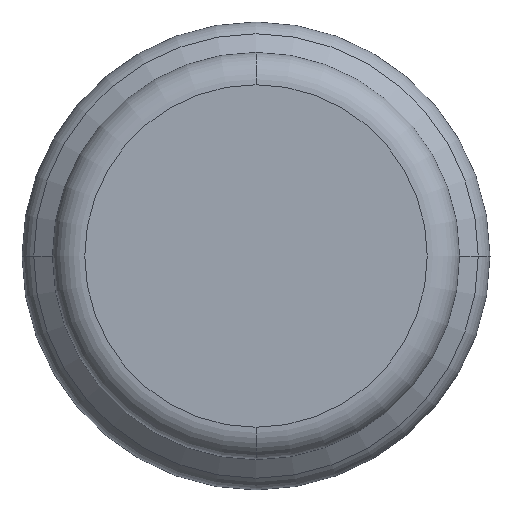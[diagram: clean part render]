
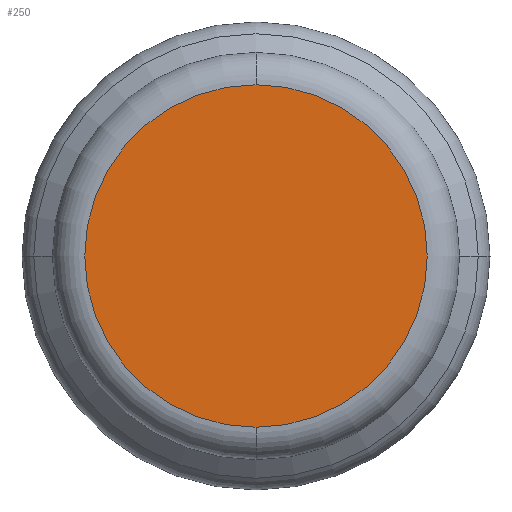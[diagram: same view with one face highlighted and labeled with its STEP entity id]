
A CAD part, front view. The second image highlights one B-rep face of the part: STEP entity #250.
In plain terms, the highlighted planar face has unit normal (0, -1, 0).
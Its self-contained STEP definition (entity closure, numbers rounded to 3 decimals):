
#10=CARTESIAN_POINT('',(37.638,-7.05,0.));
#20=DIRECTION('',(0.,-1.,0.));
#30=DIRECTION('',(1.,0.,0.));
#40=AXIS2_PLACEMENT_3D('',#10,#20,#30);
#50=PLANE('',#40);
#60=CARTESIAN_POINT('',(19.2,-7.05,0.));
#70=DIRECTION('',(0.,-1.,0.));
#80=DIRECTION('',(0.,0.,1.));
#90=AXIS2_PLACEMENT_3D('',#60,#70,#80);
#100=CIRCLE('',#90,16.15);
#110=CARTESIAN_POINT('',(19.2,-7.05,16.15));
#120=VERTEX_POINT('',#110);
#130=CARTESIAN_POINT('',(19.2,-7.05,-16.15));
#140=VERTEX_POINT('',#130);
#150=EDGE_CURVE('',#120,#140,#100,.T.);
#160=ORIENTED_EDGE('',*,*,#150,.T.);
#170=CARTESIAN_POINT('',(35.35,-7.05,0.));
#180=VERTEX_POINT('',#170);
#190=EDGE_CURVE('',#180,#120,#100,.T.);
#200=ORIENTED_EDGE('',*,*,#190,.T.);
#210=EDGE_CURVE('',#140,#180,#100,.T.);
#220=ORIENTED_EDGE('',*,*,#210,.T.);
#230=EDGE_LOOP('',(#220,#200,#160));
#240=FACE_OUTER_BOUND('',#230,.T.);
#250=ADVANCED_FACE('',(#240),#50,.T.);
